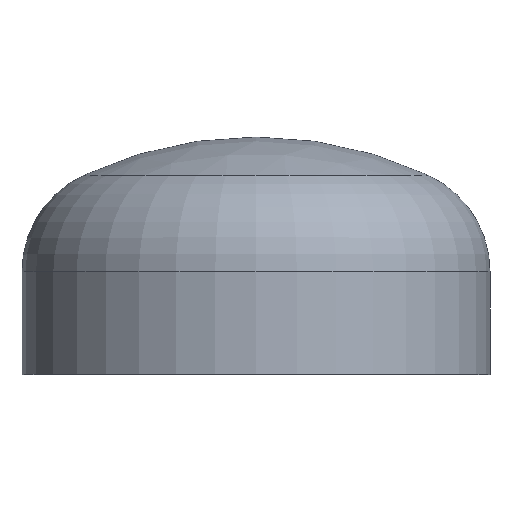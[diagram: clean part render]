
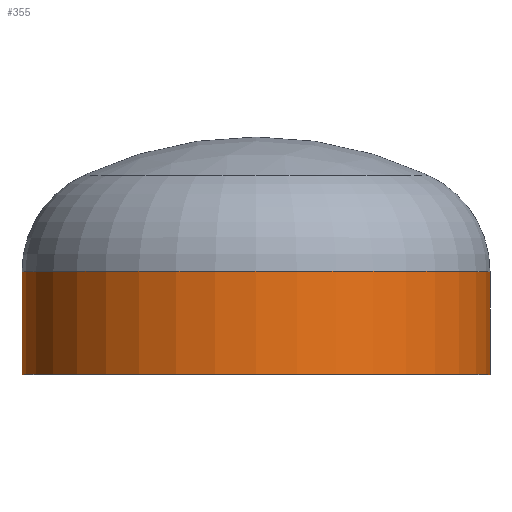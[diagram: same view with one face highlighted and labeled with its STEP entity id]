
A CAD part, top view. The second image highlights one B-rep face of the part: STEP entity #355.
In plain terms, the highlighted cylindrical face has radius 136.5 mm (diameter 273 mm), a partial arc.
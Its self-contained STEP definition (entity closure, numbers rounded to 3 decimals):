
#4 = ORIENTED_EDGE ( 'NONE', *, *, #132, .T. ) ;
#5 = VERTEX_POINT ( 'NONE', #306 ) ;
#9 = AXIS2_PLACEMENT_3D ( 'NONE', #223, #270, #47 ) ;
#11 = CARTESIAN_POINT ( 'NONE',  ( 136.5, 60., 0. ) ) ;
#19 = VERTEX_POINT ( 'NONE', #11 ) ;
#34 = EDGE_LOOP ( 'NONE', ( #4, #190, #61, #85 ) ) ;
#47 = DIRECTION ( 'NONE',  ( 1., 0., 0. ) ) ;
#61 = ORIENTED_EDGE ( 'NONE', *, *, #394, .F. ) ;
#85 = ORIENTED_EDGE ( 'NONE', *, *, #352, .F. ) ;
#92 = VERTEX_POINT ( 'NONE', #232 ) ;
#99 = VERTEX_POINT ( 'NONE', #234 ) ;
#121 = AXIS2_PLACEMENT_3D ( 'NONE', #210, #208, #212 ) ;
#132 = EDGE_CURVE ( 'NONE', #19, #92, #305, .T. ) ;
#151 = CARTESIAN_POINT ( 'NONE',  ( -136.5, 0., 0. ) ) ;
#168 = LINE ( 'NONE', #268, #339 ) ;
#188 = AXIS2_PLACEMENT_3D ( 'NONE', #358, #229, #381 ) ;
#190 = ORIENTED_EDGE ( 'NONE', *, *, #390, .T. ) ;
#208 = DIRECTION ( 'NONE',  ( 0., -1., 0. ) ) ;
#210 = CARTESIAN_POINT ( 'NONE',  ( 0., 60., 0. ) ) ;
#212 = DIRECTION ( 'NONE',  ( 1., 0., 0. ) ) ;
#223 = CARTESIAN_POINT ( 'NONE',  ( 0., 0., 0. ) ) ;
#229 = DIRECTION ( 'NONE',  ( 0., -1., 0. ) ) ;
#232 = CARTESIAN_POINT ( 'NONE',  ( -136.5, 60., 0. ) ) ;
#234 = CARTESIAN_POINT ( 'NONE',  ( 136.5, 0., 0. ) ) ;
#268 = CARTESIAN_POINT ( 'NONE',  ( 136.5, 0., 0. ) ) ;
#270 = DIRECTION ( 'NONE',  ( 0., -1., 0. ) ) ;
#275 = VECTOR ( 'NONE', #357, 1000. ) ;
#305 = CIRCLE ( 'NONE', #121, 136.5 ) ;
#306 = CARTESIAN_POINT ( 'NONE',  ( -136.5, 0., 0. ) ) ;
#329 = CIRCLE ( 'NONE', #188, 136.5 ) ;
#339 = VECTOR ( 'NONE', #397, 1000. ) ;
#344 = FACE_OUTER_BOUND ( 'NONE', #34, .T. ) ;
#352 = EDGE_CURVE ( 'NONE', #19, #99, #168, .T. ) ;
#355 = ADVANCED_FACE ( 'NONE', ( #344 ), #391, .T. ) ;
#357 = DIRECTION ( 'NONE',  ( 0., -1., 0. ) ) ;
#358 = CARTESIAN_POINT ( 'NONE',  ( 0., 0., 0. ) ) ;
#381 = DIRECTION ( 'NONE',  ( 1., 0., 0. ) ) ;
#387 = LINE ( 'NONE', #151, #275 ) ;
#390 = EDGE_CURVE ( 'NONE', #92, #5, #387, .T. ) ;
#391 = CYLINDRICAL_SURFACE ( 'NONE', #9, 136.5 ) ;
#394 = EDGE_CURVE ( 'NONE', #99, #5, #329, .T. ) ;
#397 = DIRECTION ( 'NONE',  ( 0., -1., 0. ) ) ;
